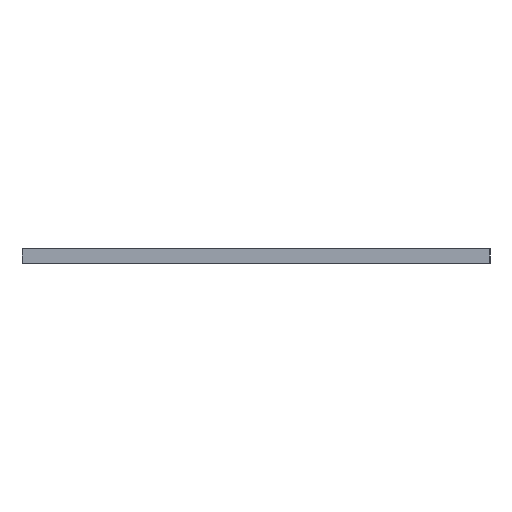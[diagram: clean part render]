
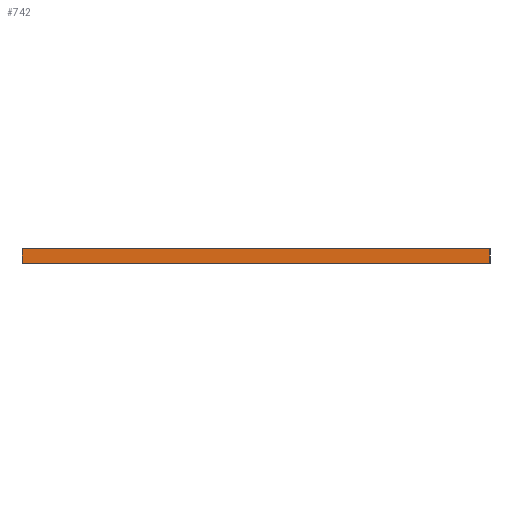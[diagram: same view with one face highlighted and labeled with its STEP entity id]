
A CAD part, left-side view. The second image highlights one B-rep face of the part: STEP entity #742.
In plain terms, the highlighted planar face has unit normal (-1, 0, 0).
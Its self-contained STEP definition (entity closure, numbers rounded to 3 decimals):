
#54=VECTOR('',#1004,1.);
#80=VECTOR('',#1044,1.);
#96=VECTOR('',#1066,1.);
#98=VECTOR('',#1072,1.);
#138=LINE('',#817,#54);
#164=LINE('',#883,#80);
#180=LINE('',#917,#96);
#182=LINE('',#921,#98);
#235=VERTEX_POINT('',#810);
#238=VERTEX_POINT('',#815);
#269=VERTEX_POINT('',#879);
#271=VERTEX_POINT('',#882);
#306=EDGE_CURVE('',#238,#235,#138,.T.);
#338=EDGE_CURVE('',#271,#269,#164,.T.);
#356=EDGE_CURVE('',#235,#269,#180,.T.);
#358=EDGE_CURVE('',#238,#271,#182,.T.);
#463=ORIENTED_EDGE('',*,*,#338,.T.);
#464=ORIENTED_EDGE('',*,*,#356,.F.);
#465=ORIENTED_EDGE('',*,*,#306,.F.);
#466=ORIENTED_EDGE('',*,*,#358,.T.);
#604=EDGE_LOOP('',(#463,#464,#465,#466));
#670=FACE_BOUND('',#604,.T.);
#712=PLANE('',#1177);
#742=ADVANCED_FACE('',(#670),#712,.F.);
#810=CARTESIAN_POINT('',(4201.896,1613.54,-2.));
#815=CARTESIAN_POINT('',(4201.896,1548.54,-2.));
#817=CARTESIAN_POINT('',(4201.896,1548.54,-2.));
#879=CARTESIAN_POINT('',(4201.896,1613.54,0.));
#882=CARTESIAN_POINT('',(4201.896,1548.54,0.));
#883=CARTESIAN_POINT('',(4201.896,1548.54,0.));
#917=CARTESIAN_POINT('',(4201.896,1613.54,-2.));
#921=CARTESIAN_POINT('',(4201.896,1548.54,-2.));
#922=CARTESIAN_POINT('',(4201.896,1548.54,-2.));
#1004=DIRECTION('',(0.,1.,0.));
#1044=DIRECTION('',(0.,1.,0.));
#1066=DIRECTION('',(0.,0.,1.));
#1072=DIRECTION('',(0.,0.,1.));
#1073=DIRECTION('',(1.,0.,0.));
#1074=DIRECTION('',(0.,0.,-1.));
#1177=AXIS2_PLACEMENT_3D('',#922,#1073,#1074);
